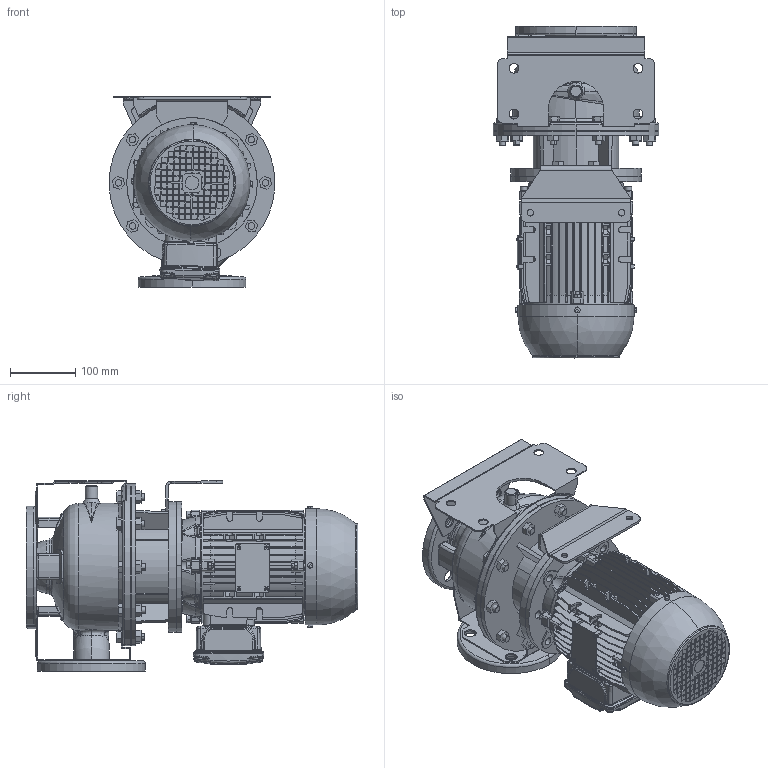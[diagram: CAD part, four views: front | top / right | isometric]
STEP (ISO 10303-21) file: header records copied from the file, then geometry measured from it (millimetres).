
FILE_DESCRIPTION (( 'STEP AP214' ), '1' );
FILE_NAME ('3LS 50-125_2.2_(90SL)_W21.STEP', '2026-04-27T02:49:59', ( '' ), ( '' ), 'SwSTEP 2.0', 'SolidWorks 2024', '' );
FILE_SCHEMA (( 'AUTOMOTIVE_DESIGN' ));
Length unit declared in the file: inch
Products named in the file (3): 50-125_2_2; 3LS 50-125_2.2_(90SL)_W21; 90S_L ALIE3_W21T_B5
Assembly tree (2 placements, depth 2):
  3LS 50-125_2.2_(90SL)_W21
    50-125_2_2
    90S_L ALIE3_W21T_B5
Bounding box: 254 x 508 x 292 mm (x, y, z)
Volume: 11258215.9 mm3; surface area: 1252408.9 mm2
Topology: 12 solids, 16 shells, 3127 faces, 8262 edges, 5362 vertices
Faces by surface type: plane 1853, cylinder 747, bspline 220, torus 168, cone 111, sphere 28
Entity records: 159977 total; most frequent: CARTESIAN_POINT 84154, ORIENTED_EDGE 16468, DIRECTION 14607, EDGE_CURVE 8234, VERTEX_POINT 5362, VECTOR 5155, LINE 5155, AXIS2_PLACEMENT_3D 4726
